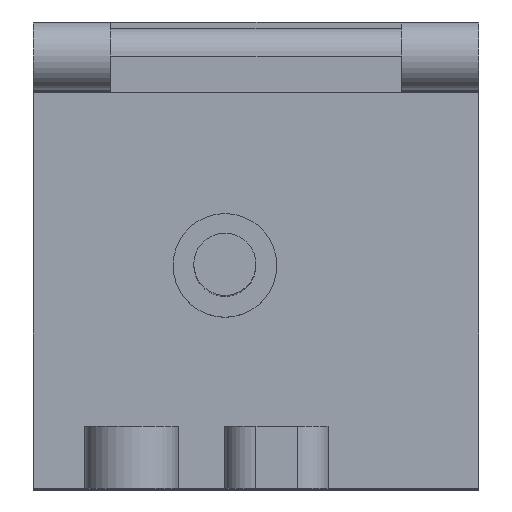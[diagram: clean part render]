
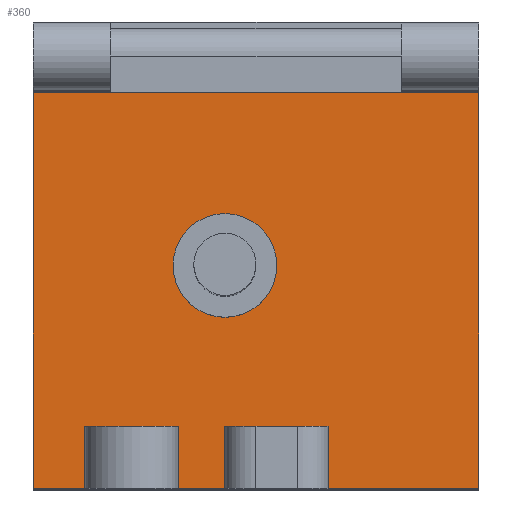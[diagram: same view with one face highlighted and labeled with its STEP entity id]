
A CAD part, top view. The second image highlights one B-rep face of the part: STEP entity #360.
In plain terms, the highlighted planar face has unit normal (0, 0, 1).
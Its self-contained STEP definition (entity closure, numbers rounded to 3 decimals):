
#36 = VERTEX_POINT ( 'NONE', #1342 ) ;
#37 = VERTEX_POINT ( 'NONE', #1341 ) ;
#40 = EDGE_CURVE ( 'NONE', #36, #37, #1336, .T. ) ;
#360 = ADVANCED_FACE ( 'NONE', ( #1857, #1856 ), #1855, .F. ) ;
#361 = EDGE_LOOP ( 'NONE', ( #529, #533, #536, #539, #456, #515, #517, #520, #523, #526, #500, #503 ) ) ;
#455 = VERTEX_POINT ( 'NONE', #2027 ) ;
#456 = ORIENTED_EDGE ( 'NONE', *, *, #457, .T. ) ;
#457 = EDGE_CURVE ( 'NONE', #455, #458, #2026, .T. ) ;
#458 = VERTEX_POINT ( 'NONE', #2022 ) ;
#459 = VERTEX_POINT ( 'NONE', #2021 ) ;
#500 = ORIENTED_EDGE ( 'NONE', *, *, #501, .F. ) ;
#501 = EDGE_CURVE ( 'NONE', #502, #528, #2086, .T. ) ;
#502 = VERTEX_POINT ( 'NONE', #2082 ) ;
#503 = ORIENTED_EDGE ( 'NONE', *, *, #504, .T. ) ;
#504 = EDGE_CURVE ( 'NONE', #502, #532, #2143, .T. ) ;
#505 = EDGE_LOOP ( 'NONE', ( #506, #507 ) ) ;
#506 = ORIENTED_EDGE ( 'NONE', *, *, #40, .F. ) ;
#507 = ORIENTED_EDGE ( 'NONE', *, *, #508, .F. ) ;
#508 = EDGE_CURVE ( 'NONE', #37, #36, #2139, .T. ) ;
#515 = ORIENTED_EDGE ( 'NONE', *, *, #516, .T. ) ;
#516 = EDGE_CURVE ( 'NONE', #458, #459, #2122, .T. ) ;
#517 = ORIENTED_EDGE ( 'NONE', *, *, #518, .F. ) ;
#518 = EDGE_CURVE ( 'NONE', #519, #459, #2118, .T. ) ;
#519 = VERTEX_POINT ( 'NONE', #2113 ) ;
#520 = ORIENTED_EDGE ( 'NONE', *, *, #521, .F. ) ;
#521 = EDGE_CURVE ( 'NONE', #522, #519, #2114, .T. ) ;
#522 = VERTEX_POINT ( 'NONE', #2172 ) ;
#523 = ORIENTED_EDGE ( 'NONE', *, *, #524, .T. ) ;
#524 = EDGE_CURVE ( 'NONE', #522, #525, #2171, .T. ) ;
#525 = VERTEX_POINT ( 'NONE', #2167 ) ;
#526 = ORIENTED_EDGE ( 'NONE', *, *, #527, .T. ) ;
#527 = EDGE_CURVE ( 'NONE', #525, #528, #2166, .T. ) ;
#528 = VERTEX_POINT ( 'NONE', #2162 ) ;
#529 = ORIENTED_EDGE ( 'NONE', *, *, #530, .F. ) ;
#530 = EDGE_CURVE ( 'NONE', #531, #532, #2161, .T. ) ;
#531 = VERTEX_POINT ( 'NONE', #2157 ) ;
#532 = VERTEX_POINT ( 'NONE', #2156 ) ;
#533 = ORIENTED_EDGE ( 'NONE', *, *, #534, .T. ) ;
#534 = EDGE_CURVE ( 'NONE', #531, #535, #2155, .T. ) ;
#535 = VERTEX_POINT ( 'NONE', #2151 ) ;
#536 = ORIENTED_EDGE ( 'NONE', *, *, #537, .F. ) ;
#537 = EDGE_CURVE ( 'NONE', #538, #535, #2150, .T. ) ;
#538 = VERTEX_POINT ( 'NONE', #2146 ) ;
#539 = ORIENTED_EDGE ( 'NONE', *, *, #540, .F. ) ;
#540 = EDGE_CURVE ( 'NONE', #455, #538, #2145, .T. ) ;
#1332 = DIRECTION ( 'NONE',  ( 0., 1., 0. ) ) ;
#1333 = DIRECTION ( 'NONE',  ( 0., 0., 1. ) ) ;
#1334 = CARTESIAN_POINT ( 'NONE',  ( -3., 21.5, 0. ) ) ;
#1335 = AXIS2_PLACEMENT_3D ( 'NONE', #1334, #1333, #1332 ) ;
#1336 = CIRCLE ( 'NONE', #1335, 5. ) ;
#1341 = CARTESIAN_POINT ( 'NONE',  ( -8., 21.5, 0. ) ) ;
#1342 = CARTESIAN_POINT ( 'NONE',  ( 2., 21.5, 0. ) ) ;
#1851 = DIRECTION ( 'NONE',  ( 0., 1., 0. ) ) ;
#1852 = DIRECTION ( 'NONE',  ( 0., 0., -1. ) ) ;
#1853 = CARTESIAN_POINT ( 'NONE',  ( 21.5, 0., 0. ) ) ;
#1854 = AXIS2_PLACEMENT_3D ( 'NONE', #1853, #1852, #1851 ) ;
#1855 = PLANE ( 'NONE',  #1854 ) ;
#1856 = FACE_BOUND ( 'NONE', #505, .T. ) ;
#1857 = FACE_OUTER_BOUND ( 'NONE', #361, .T. ) ;
#2021 = CARTESIAN_POINT ( 'NONE',  ( -21.5, 0., 0. ) ) ;
#2022 = CARTESIAN_POINT ( 'NONE',  ( -21.5, 38.2, 0. ) ) ;
#2023 = DIRECTION ( 'NONE',  ( -1., 0., 0. ) ) ;
#2024 = VECTOR ( 'NONE', #2023, 1000. ) ;
#2025 = CARTESIAN_POINT ( 'NONE',  ( 21.5, 38.2, 0. ) ) ;
#2026 = LINE ( 'NONE', #2025, #2024 ) ;
#2027 = CARTESIAN_POINT ( 'NONE',  ( 21.5, 38.2, 0. ) ) ;
#2082 = CARTESIAN_POINT ( 'NONE',  ( -3., 0., 0. ) ) ;
#2083 = DIRECTION ( 'NONE',  ( -1., 0., 0. ) ) ;
#2084 = VECTOR ( 'NONE', #2083, 1000. ) ;
#2085 = CARTESIAN_POINT ( 'NONE',  ( 21.5, 0., 0. ) ) ;
#2086 = LINE ( 'NONE', #2085, #2084 ) ;
#2113 = CARTESIAN_POINT ( 'NONE',  ( -16.5, 0., 0. ) ) ;
#2114 = LINE ( 'NONE', #2175, #2174 ) ;
#2115 = DIRECTION ( 'NONE',  ( -1., 0., 0. ) ) ;
#2116 = VECTOR ( 'NONE', #2115, 1000. ) ;
#2117 = CARTESIAN_POINT ( 'NONE',  ( 21.5, 0., 0. ) ) ;
#2118 = LINE ( 'NONE', #2117, #2116 ) ;
#2119 = DIRECTION ( 'NONE',  ( 0., -1., 0. ) ) ;
#2120 = VECTOR ( 'NONE', #2119, 1000. ) ;
#2121 = CARTESIAN_POINT ( 'NONE',  ( -21.5, 0., 0. ) ) ;
#2122 = LINE ( 'NONE', #2121, #2120 ) ;
#2135 = DIRECTION ( 'NONE',  ( 0., 1., 0. ) ) ;
#2136 = DIRECTION ( 'NONE',  ( 0., 0., 1. ) ) ;
#2137 = CARTESIAN_POINT ( 'NONE',  ( -3., 21.5, 0. ) ) ;
#2138 = AXIS2_PLACEMENT_3D ( 'NONE', #2137, #2136, #2135 ) ;
#2139 = CIRCLE ( 'NONE', #2138, 5. ) ;
#2140 = DIRECTION ( 'NONE',  ( 0., 1., 0. ) ) ;
#2141 = VECTOR ( 'NONE', #2140, 1000. ) ;
#2142 = CARTESIAN_POINT ( 'NONE',  ( -3., 0., 0. ) ) ;
#2143 = LINE ( 'NONE', #2142, #2141 ) ;
#2144 = CARTESIAN_POINT ( 'NONE',  ( 21.5, 0., 0. ) ) ;
#2145 = LINE ( 'NONE', #2144, #2208 ) ;
#2146 = CARTESIAN_POINT ( 'NONE',  ( 21.5, 0., 0. ) ) ;
#2147 = DIRECTION ( 'NONE',  ( -1., 0., 0. ) ) ;
#2148 = VECTOR ( 'NONE', #2147, 1000. ) ;
#2149 = CARTESIAN_POINT ( 'NONE',  ( 21.5, 0., 0. ) ) ;
#2150 = LINE ( 'NONE', #2149, #2148 ) ;
#2151 = CARTESIAN_POINT ( 'NONE',  ( 7., 0., 0. ) ) ;
#2152 = DIRECTION ( 'NONE',  ( 0., -1., 0. ) ) ;
#2153 = VECTOR ( 'NONE', #2152, 1000. ) ;
#2154 = CARTESIAN_POINT ( 'NONE',  ( 7., 0., 0. ) ) ;
#2155 = LINE ( 'NONE', #2154, #2153 ) ;
#2156 = CARTESIAN_POINT ( 'NONE',  ( -3., 6., 0. ) ) ;
#2157 = CARTESIAN_POINT ( 'NONE',  ( 7., 6., 0. ) ) ;
#2158 = DIRECTION ( 'NONE',  ( -1., 0., 0. ) ) ;
#2159 = VECTOR ( 'NONE', #2158, 1000. ) ;
#2160 = CARTESIAN_POINT ( 'NONE',  ( 21.5, 6., 0. ) ) ;
#2161 = LINE ( 'NONE', #2160, #2159 ) ;
#2162 = CARTESIAN_POINT ( 'NONE',  ( -7.5, 0., 0. ) ) ;
#2163 = DIRECTION ( 'NONE',  ( 0., -1., 0. ) ) ;
#2164 = VECTOR ( 'NONE', #2163, 1000. ) ;
#2165 = CARTESIAN_POINT ( 'NONE',  ( -7.5, 6., 0. ) ) ;
#2166 = LINE ( 'NONE', #2165, #2164 ) ;
#2167 = CARTESIAN_POINT ( 'NONE',  ( -7.5, 6., 0. ) ) ;
#2168 = DIRECTION ( 'NONE',  ( 1., 0., 0. ) ) ;
#2169 = VECTOR ( 'NONE', #2168, 1000. ) ;
#2170 = CARTESIAN_POINT ( 'NONE',  ( -16.5, 6., 0. ) ) ;
#2171 = LINE ( 'NONE', #2170, #2169 ) ;
#2172 = CARTESIAN_POINT ( 'NONE',  ( -16.5, 6., 0. ) ) ;
#2173 = DIRECTION ( 'NONE',  ( 0., -1., 0. ) ) ;
#2174 = VECTOR ( 'NONE', #2173, 1000. ) ;
#2175 = CARTESIAN_POINT ( 'NONE',  ( -16.5, 6., 0. ) ) ;
#2207 = DIRECTION ( 'NONE',  ( 0., -1., 0. ) ) ;
#2208 = VECTOR ( 'NONE', #2207, 1000. ) ;
